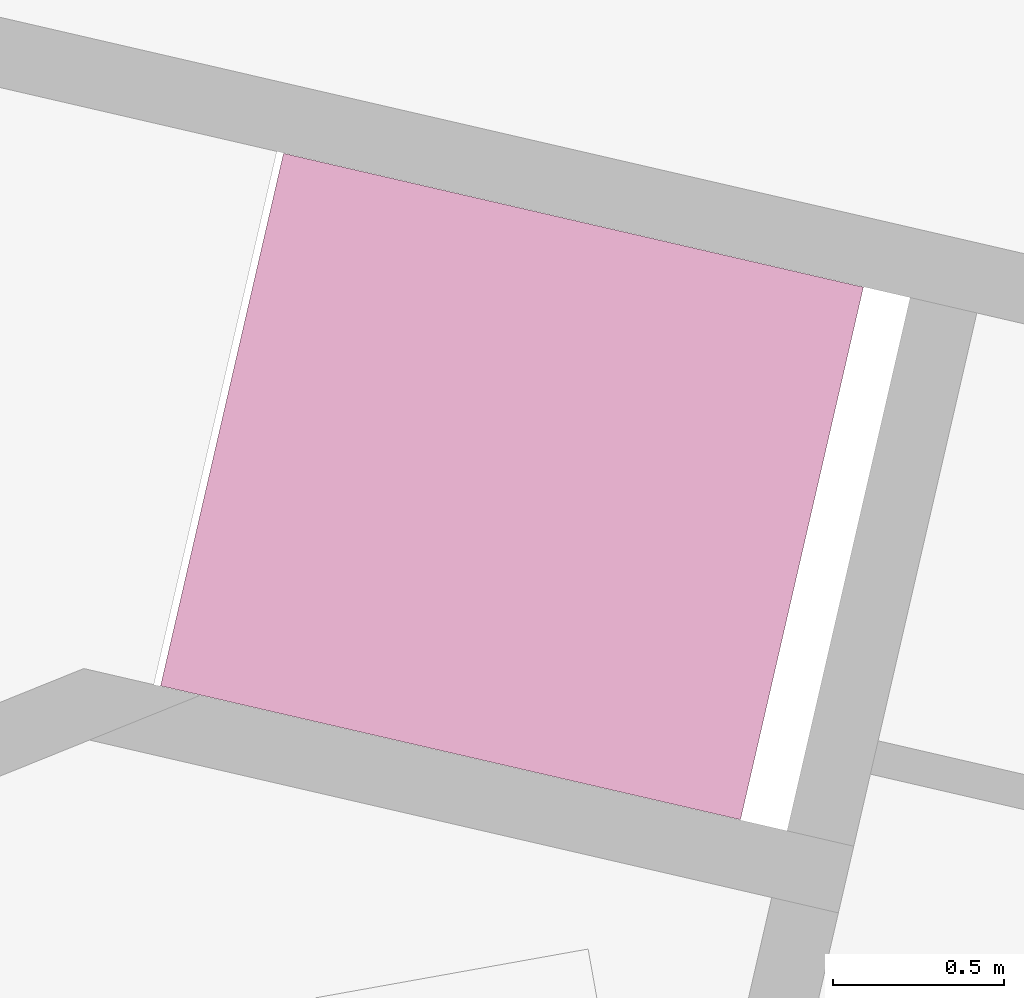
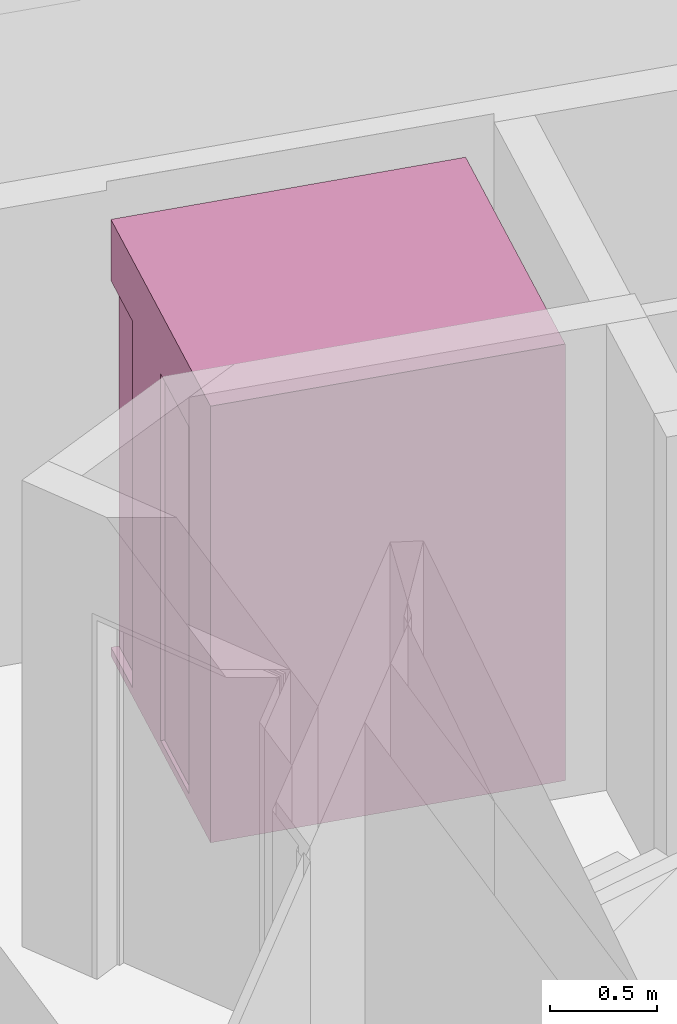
# One storey, part 19 of 20: 1 transport element.
"""IFC2X3 building model written with IfcOpenShell, lengths in metres."""

from ifc_helpers import new_model, entity, si_unit, converted_unit, derived_unit, money_unit, direction, frame, origin_with_axes, place, context, subcontext, project, spatial, faceted_brep, type_object, element, save


model = new_model("IFC2X3")

# Units and contexts
model_context = context("Model", 3, precision=1e-05, world=origin_with_axes(), true_north=direction((0.0, 1.0)))
body_context = subcontext(model_context, "Body", "Model", "MODEL_VIEW")
ifc_project = project(units=[si_unit("LENGTHUNIT", "METRE"), si_unit("AREAUNIT", "SQUARE_METRE"), si_unit("VOLUMEUNIT", "CUBIC_METRE"), converted_unit("PLANEANGLEUNIT", "DEGREE", entity("IfcPlaneAngleMeasure", 0.0174532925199), si_unit("PLANEANGLEUNIT", "RADIAN"), dimensions=[0, 0, 0, 0, 0, 0, 0]), si_unit("SOLIDANGLEUNIT", "STERADIAN"), money_unit("EUR"), converted_unit("TIMEUNIT", "Year", entity("IfcTimeMeasure", 31556926.0), si_unit("TIMEUNIT", "SECOND"), dimensions=[0, 0, 1, 0, 0, 0, 0]), si_unit("MASSUNIT", "GRAM", prefix="KILO"), si_unit("THERMODYNAMICTEMPERATUREUNIT", "DEGREE_CELSIUS"), si_unit("LUMINOUSINTENSITYUNIT", "LUMEN"), si_unit("ENERGYUNIT", "JOULE", prefix="MEGA"), derived_unit("THERMALCONDUCTANCEUNIT", [(si_unit("POWERUNIT", "WATT"), 1), (si_unit("LENGTHUNIT", "METRE"), -1), (si_unit("THERMODYNAMICTEMPERATUREUNIT", "KELVIN"), -1)]), derived_unit("SPECIFICHEATCAPACITYUNIT", [(si_unit("ENERGYUNIT", "JOULE"), 1), (si_unit("MASSUNIT", "GRAM", prefix="KILO"), -1), (si_unit("THERMODYNAMICTEMPERATUREUNIT", "KELVIN"), -1)]), derived_unit("MASSDENSITYUNIT", [(si_unit("MASSUNIT", "GRAM", prefix="KILO"), 1), (si_unit("VOLUMEUNIT", "CUBIC_METRE"), -1)])], contexts=[model_context])

# Site, building, storey
site_placement = place(None, origin_with_axes())
site = spatial("IfcSite", under=ifc_project, at=site_placement, Name="Site", CompositionType="ELEMENT")
building_placement = place(site_placement, origin_with_axes())
building = spatial("IfcBuilding", under=site, at=building_placement, Name="Bâtiment", CompositionType="ELEMENT")
storey_placement = place(building_placement, frame((0.0, 0.0, -2.9), z_axis=(0.0, 0.0, 1.0), x_axis=(1.0, 0.0, 0.0)))
storey = spatial("IfcBuildingStorey", under=building, at=storey_placement, Name="Sous-sol", CompositionType="ELEMENT", Elevation=-2.9)

# Transport element
transport_element_type = type_object("IfcTransportElementType", Name="Ascenseur 23", PredefinedType="ELEVATOR")
transport_element_placement = place(storey_placement, frame((-9.39707466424, -4.24324675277, 0.0), z_axis=(0.0, 0.0, 1.0), x_axis=(-0.224876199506, -0.974387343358, 0.0)))
element("IfcTransportElement", 1, at=transport_element_placement, inside=storey, type_object=transport_element_type, Name="MOB-001", ObjectType="ELEVATOR", context=body_context, shape_type="Brep", body=[
    faceted_brep([(0.95, 0.21, 0.0), (0.5, 0.21, 0.0), (0.5, 0.21, 2.1), (0.95, 0.21, 2.1), (0.95, 0.19, 0.0), (0.5, 0.19, 0.0), (0.5, 0.19, 2.1), (0.95, 0.19, 2.1)], [[[0, 1, 2, 3]], [[1, 0, 4, 5]], [[2, 1, 5, 6]], [[3, 2, 6, 7]], [[0, 3, 7, 4]], [[5, 4, 7, 6]]]),
    faceted_brep([(1.4, 0.23, 0.0), (0.95, 0.23, 0.0), (0.95, 0.23, 2.1), (1.4, 0.23, 2.1), (1.4, 0.21, 0.0), (0.95, 0.21, 0.0), (0.95, 0.21, 2.1), (1.4, 0.21, 2.1)], [[[0, 1, 2, 3]], [[1, 0, 4, 5]], [[2, 1, 5, 6]], [[3, 2, 6, 7]], [[0, 3, 7, 4]], [[5, 4, 7, 6]]]),
    faceted_brep([(1.4, 0.27, 0.0), (1.669, 0.27, 0.0), (1.669, 1.85, 0.0), (0.231, 1.85, 0.0), (0.231, 0.27, 0.0), (0.5, 0.27, 0.0), (0.5, 0.23, 0.0), (0.151, 0.23, 0.0), (0.151, 1.93, 0.0), (1.749, 1.93, 0.0), (1.749, 0.19, 0.0), (1.4, 0.19, 0.0), (0.231, 0.27, 2.4), (1.669, 0.27, 2.4), (1.4, 0.27, 2.1), (0.5, 0.27, 2.1), (1.669, 1.85, 2.4), (0.231, 1.85, 2.4), (0.5, 0.23, 2.1), (0.151, 0.23, 2.1), (0.151, 0.19, 2.1), (0.151, 0.19, 2.4), (0.151, 1.93, 2.4), (1.749, 1.93, 2.4), (1.749, 0.19, 2.4), (1.4, 0.19, 2.1)], [[[0, 1, 2, 3, 4, 5, 6, 7, 8, 9, 10, 11]], [[12, 13, 1, 0, 14, 15, 5, 4]], [[13, 16, 2, 1]], [[16, 17, 3, 2]], [[17, 12, 4, 3]], [[5, 15, 18, 6]], [[18, 19, 7, 6]], [[19, 20, 21, 22, 8, 7]], [[23, 9, 8, 22]], [[24, 10, 9, 23]], [[21, 20, 25, 11, 10, 24]], [[14, 0, 11, 25]], [[22, 21, 24, 23], [12, 17, 16, 13]], [[15, 14, 25, 20, 19, 18]]]),
    faceted_brep([(0.151, 0.19, -0.05), (1.749, 0.19, -0.05), (1.749, 0.19, 0.0), (0.151, 0.19, 0.0), (0.151, 1.93, -0.05), (1.749, 1.93, -0.05), (1.749, 1.93, 0.0), (0.151, 1.93, 0.0)], [[[0, 1, 2, 3]], [[0, 4, 5, 1]], [[1, 5, 6, 2]], [[3, 2, 6, 7]], [[4, 0, 3, 7]], [[5, 4, 7, 6]]]),
    faceted_brep([(0.151, 0.19, 2.4), (1.749, 0.19, 2.4), (1.749, 0.19, 2.45), (0.151, 0.19, 2.45), (0.151, 1.93, 2.4), (1.749, 1.93, 2.4), (1.749, 1.93, 2.45), (0.151, 1.93, 2.45)], [[[0, 1, 2, 3]], [[0, 4, 5, 1]], [[1, 5, 6, 2]], [[3, 2, 6, 7]], [[4, 0, 3, 7]], [[5, 4, 7, 6]]]),
    faceted_brep([(1.669, 0.37, 1.0), (1.669, 0.47, 1.0), (1.669, 0.47, 1.075), (1.669, 0.37, 1.075), (1.659, 0.37, 1.0), (1.659, 0.47, 1.0), (1.659, 0.47, 1.075), (1.659, 0.37, 1.075)], [[[0, 1, 2, 3]], [[1, 0, 4, 5]], [[2, 1, 5, 6]], [[3, 2, 6, 7]], [[0, 3, 7, 4]], [[5, 4, 7, 6]]]),
    faceted_brep([(1.659, 0.450428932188, 1.00542893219), (1.659, 0.450428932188, 1.01957106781), (1.654, 0.451843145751, 1.01815685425), (1.654, 0.451843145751, 1.00684314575), (1.659, 0.464571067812, 1.00542893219), (1.659, 0.464571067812, 1.01957106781), (1.654, 0.463156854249, 1.01815685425), (1.654, 0.463156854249, 1.00684314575)], [[[0, 1, 2, 3]], [[0, 4, 5, 1]], [[1, 5, 6, 2]], [[3, 2, 6, 7]], [[4, 0, 3, 7]], [[5, 4, 7, 6]]]),
    faceted_brep([(1.659, 0.425428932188, 1.00542893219), (1.659, 0.425428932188, 1.01957106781), (1.654, 0.426843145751, 1.01815685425), (1.654, 0.426843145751, 1.00684314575), (1.659, 0.439571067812, 1.00542893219), (1.659, 0.439571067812, 1.01957106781), (1.654, 0.438156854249, 1.01815685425), (1.654, 0.438156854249, 1.00684314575)], [[[0, 1, 2, 3]], [[0, 4, 5, 1]], [[1, 5, 6, 2]], [[3, 2, 6, 7]], [[4, 0, 3, 7]], [[5, 4, 7, 6]]]),
    faceted_brep([(1.659, 0.400428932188, 1.00542893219), (1.659, 0.400428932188, 1.01957106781), (1.654, 0.401843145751, 1.01815685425), (1.654, 0.401843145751, 1.00684314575), (1.659, 0.414571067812, 1.00542893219), (1.659, 0.414571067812, 1.01957106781), (1.654, 0.413156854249, 1.01815685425), (1.654, 0.413156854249, 1.00684314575)], [[[0, 1, 2, 3]], [[0, 4, 5, 1]], [[1, 5, 6, 2]], [[3, 2, 6, 7]], [[4, 0, 3, 7]], [[5, 4, 7, 6]]]),
    faceted_brep([(1.659, 0.375428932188, 1.00542893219), (1.659, 0.375428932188, 1.01957106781), (1.654, 0.376843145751, 1.01815685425), (1.654, 0.376843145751, 1.00684314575), (1.659, 0.389571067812, 1.00542893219), (1.659, 0.389571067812, 1.01957106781), (1.654, 0.388156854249, 1.01815685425), (1.654, 0.388156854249, 1.00684314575)], [[[0, 1, 2, 3]], [[0, 4, 5, 1]], [[1, 5, 6, 2]], [[3, 2, 6, 7]], [[4, 0, 3, 7]], [[5, 4, 7, 6]]]),
    faceted_brep([(1.659, 0.450428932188, 1.05542893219), (1.659, 0.450428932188, 1.06957106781), (1.654, 0.451843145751, 1.06815685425), (1.654, 0.451843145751, 1.05684314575), (1.659, 0.464571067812, 1.05542893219), (1.659, 0.464571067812, 1.06957106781), (1.654, 0.463156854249, 1.06815685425), (1.654, 0.463156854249, 1.05684314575)], [[[0, 1, 2, 3]], [[0, 4, 5, 1]], [[1, 5, 6, 2]], [[3, 2, 6, 7]], [[4, 0, 3, 7]], [[5, 4, 7, 6]]]),
])

save(model, "model.ifc")
